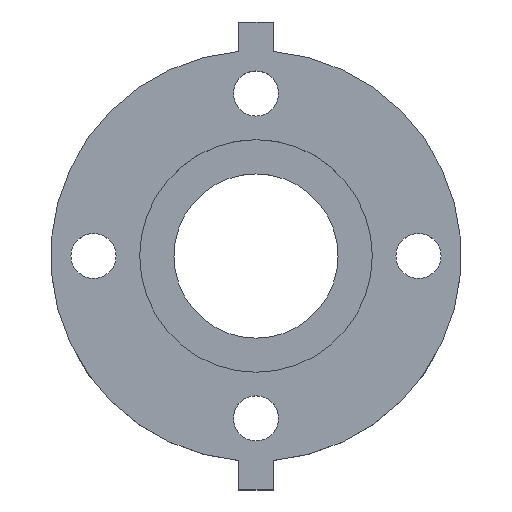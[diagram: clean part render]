
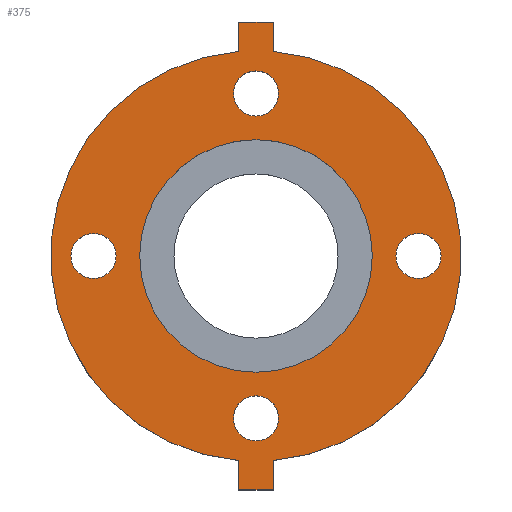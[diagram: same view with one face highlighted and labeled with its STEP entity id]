
A CAD part, top view. The second image highlights one B-rep face of the part: STEP entity #375.
In plain terms, the highlighted planar face has unit normal (0, 0, 1).
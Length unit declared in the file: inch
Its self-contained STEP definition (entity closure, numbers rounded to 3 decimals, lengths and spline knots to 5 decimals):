
#59=FACE_BOUND('',#120,.T.);
#60=FACE_BOUND('',#121,.T.);
#61=FACE_BOUND('',#122,.T.);
#62=FACE_BOUND('',#123,.T.);
#63=FACE_BOUND('',#124,.T.);
#71=CIRCLE('',#408,3.);
#72=CIRCLE('',#413,0.33);
#73=CIRCLE('',#415,0.33);
#74=CIRCLE('',#417,0.33);
#75=CIRCLE('',#419,0.33);
#78=CIRCLE('',#425,1.7);
#79=CIRCLE('',#427,3.);
#96=FACE_OUTER_BOUND('',#119,.T.);
#119=EDGE_LOOP('',(#318,#319,#320,#321,#322,#323,#324,#325));
#120=EDGE_LOOP('',(#326));
#121=EDGE_LOOP('',(#327));
#122=EDGE_LOOP('',(#328));
#123=EDGE_LOOP('',(#329));
#124=EDGE_LOOP('',(#330));
#126=LINE('',#568,#152);
#132=LINE('',#580,#158);
#134=LINE('',#583,#160);
#139=LINE('',#610,#165);
#143=LINE('',#617,#169);
#144=LINE('',#619,#170);
#152=VECTOR('',#447,0.3937);
#158=VECTOR('',#455,0.3937);
#160=VECTOR('',#459,0.3937);
#165=VECTOR('',#486,0.3937);
#169=VECTOR('',#492,0.3937);
#170=VECTOR('',#495,0.3937);
#177=VERTEX_POINT('',#564);
#179=VERTEX_POINT('',#567);
#182=VERTEX_POINT('',#574);
#184=VERTEX_POINT('',#578);
#194=VERTEX_POINT('',#605);
#195=VERTEX_POINT('',#609);
#196=VERTEX_POINT('',#613);
#197=VERTEX_POINT('',#615);
#198=VERTEX_POINT('',#621);
#199=VERTEX_POINT('',#625);
#200=VERTEX_POINT('',#629);
#201=VERTEX_POINT('',#633);
#204=VERTEX_POINT('',#644);
#206=EDGE_CURVE('',#177,#179,#126,.T.);
#212=EDGE_CURVE('',#184,#182,#132,.T.);
#214=EDGE_CURVE('',#179,#184,#134,.T.);
#225=EDGE_CURVE('',#194,#182,#71,.T.);
#227=EDGE_CURVE('',#195,#194,#139,.T.);
#231=EDGE_CURVE('',#196,#197,#143,.T.);
#232=EDGE_CURVE('',#197,#195,#144,.T.);
#234=EDGE_CURVE('',#198,#198,#72,.T.);
#236=EDGE_CURVE('',#199,#199,#73,.T.);
#238=EDGE_CURVE('',#200,#200,#74,.T.);
#240=EDGE_CURVE('',#201,#201,#75,.T.);
#245=EDGE_CURVE('',#204,#204,#78,.T.);
#246=EDGE_CURVE('',#177,#196,#79,.T.);
#318=ORIENTED_EDGE('',*,*,#246,.T.);
#319=ORIENTED_EDGE('',*,*,#231,.T.);
#320=ORIENTED_EDGE('',*,*,#232,.T.);
#321=ORIENTED_EDGE('',*,*,#227,.T.);
#322=ORIENTED_EDGE('',*,*,#225,.T.);
#323=ORIENTED_EDGE('',*,*,#212,.F.);
#324=ORIENTED_EDGE('',*,*,#214,.F.);
#325=ORIENTED_EDGE('',*,*,#206,.F.);
#326=ORIENTED_EDGE('',*,*,#234,.T.);
#327=ORIENTED_EDGE('',*,*,#236,.T.);
#328=ORIENTED_EDGE('',*,*,#238,.T.);
#329=ORIENTED_EDGE('',*,*,#240,.T.);
#330=ORIENTED_EDGE('',*,*,#245,.T.);
#339=PLANE('',#428);
#375=ADVANCED_FACE('',(#96,#59,#60,#61,#62,#63),#339,.T.);
#408=AXIS2_PLACEMENT_3D('',#606,#481,#482);
#413=AXIS2_PLACEMENT_3D('',#623,#499,#500);
#415=AXIS2_PLACEMENT_3D('',#627,#504,#505);
#417=AXIS2_PLACEMENT_3D('',#631,#509,#510);
#419=AXIS2_PLACEMENT_3D('',#635,#514,#515);
#425=AXIS2_PLACEMENT_3D('',#646,#528,#529);
#427=AXIS2_PLACEMENT_3D('',#648,#532,#533);
#428=AXIS2_PLACEMENT_3D('',#649,#534,#535);
#447=DIRECTION('',(0.,-1.,0.));
#455=DIRECTION('',(0.,1.,0.));
#459=DIRECTION('',(-1.,0.,0.));
#481=DIRECTION('center_axis',(0.,0.,1.));
#482=DIRECTION('ref_axis',(-1.,0.,0.));
#486=DIRECTION('',(0.,-1.,0.));
#492=DIRECTION('',(0.,1.,0.));
#495=DIRECTION('',(-1.,0.,0.));
#499=DIRECTION('center_axis',(0.,0.,-1.));
#500=DIRECTION('ref_axis',(0.,1.,0.));
#504=DIRECTION('center_axis',(0.,0.,-1.));
#505=DIRECTION('ref_axis',(1.,0.,0.));
#509=DIRECTION('center_axis',(0.,0.,-1.));
#510=DIRECTION('ref_axis',(0.,-1.,0.));
#514=DIRECTION('center_axis',(0.,0.,-1.));
#515=DIRECTION('ref_axis',(-1.,0.,0.));
#528=DIRECTION('center_axis',(0.,0.,-1.));
#529=DIRECTION('ref_axis',(-1.,0.,0.));
#532=DIRECTION('center_axis',(0.,0.,1.));
#533=DIRECTION('ref_axis',(-1.,0.,0.));
#534=DIRECTION('center_axis',(0.,0.,1.));
#535=DIRECTION('ref_axis',(1.,0.,0.));
#564=CARTESIAN_POINT('',(0.25,-2.98957,0.82));
#567=CARTESIAN_POINT('',(0.25,-3.42,0.82));
#568=CARTESIAN_POINT('',(0.25,-3.42,0.82));
#574=CARTESIAN_POINT('',(-0.25,-2.98957,0.82));
#578=CARTESIAN_POINT('',(-0.25,-3.42,0.82));
#580=CARTESIAN_POINT('',(-0.25,-2.805,0.82));
#583=CARTESIAN_POINT('',(-0.25,-3.42,0.82));
#605=CARTESIAN_POINT('',(-0.25,2.98957,0.82));
#606=CARTESIAN_POINT('Origin',(0.,0.,0.82));
#609=CARTESIAN_POINT('',(-0.25,3.42,0.82));
#610=CARTESIAN_POINT('',(-0.25,2.805,0.82));
#613=CARTESIAN_POINT('',(0.25,2.98957,0.82));
#615=CARTESIAN_POINT('',(0.25,3.42,0.82));
#617=CARTESIAN_POINT('',(0.25,3.42,0.82));
#619=CARTESIAN_POINT('',(-0.25,3.42,0.82));
#621=CARTESIAN_POINT('',(2.375,-0.33,0.82));
#623=CARTESIAN_POINT('Origin',(2.375,0.,0.82));
#625=CARTESIAN_POINT('',(-0.33,-2.375,0.82));
#627=CARTESIAN_POINT('Origin',(0.,-2.375,0.82));
#629=CARTESIAN_POINT('',(-2.375,0.33,0.82));
#631=CARTESIAN_POINT('Origin',(-2.375,0.,0.82));
#633=CARTESIAN_POINT('',(0.33,2.375,0.82));
#635=CARTESIAN_POINT('Origin',(0.,2.375,0.82));
#644=CARTESIAN_POINT('',(1.7,0.,0.82));
#646=CARTESIAN_POINT('Origin',(0.,0.,0.82));
#648=CARTESIAN_POINT('Origin',(0.,0.,0.82));
#649=CARTESIAN_POINT('Origin',(0.,0.,
0.82));
